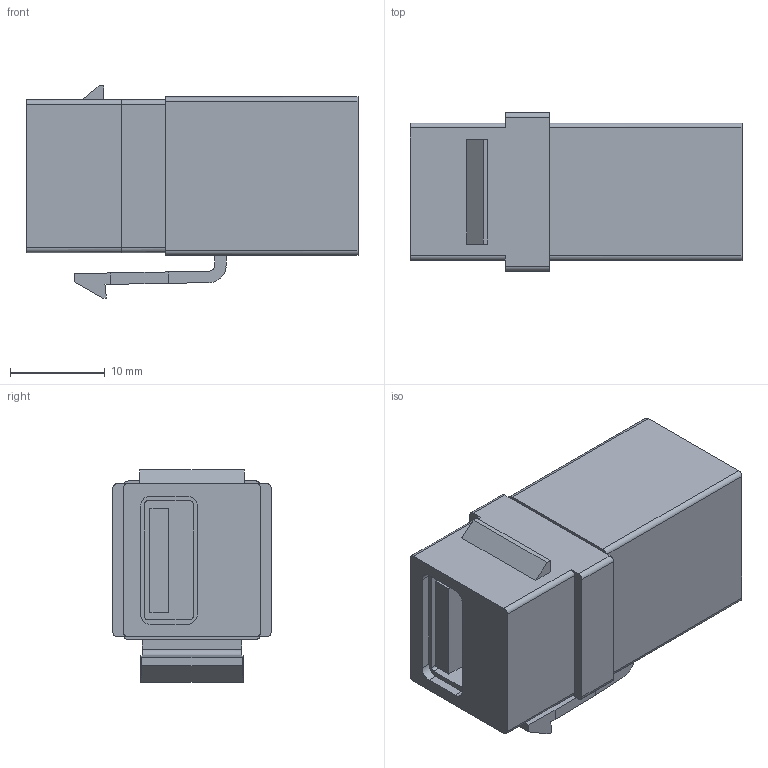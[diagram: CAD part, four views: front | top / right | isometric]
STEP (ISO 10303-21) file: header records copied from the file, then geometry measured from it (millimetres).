
FILE_DESCRIPTION( ('This file contains a STEP AP42 implementation' ,'as created by ZW3D STEP Interface translator.') ,'2;1' );
FILE_NAME( 'TB-001_FAU3-AFAF180-xx-ABS_SD.stp' ,'26 330.134526', (''), ('ZWCAD Software Co.'), 'Version 1.0', 'ZW3D to STEP translator', '' );
FILE_SCHEMA(('AUTOMOTIVE_DESIGN'));
Length unit declared in the file: millimetre
Products named in the file (2): 0; TB-001_FAU3-AFAF180-xx-ABS_SD
Bounding box: 35 x 16.7 x 22.36 mm (x, y, z)
Volume: 7853.2 mm3; surface area: 4335.1 mm2
Topology: 1 solids, 1 shells, 97 faces, 257 edges, 170 vertices
Faces by surface type: bspline 97
Entity records: 4571 total; most frequent: CARTESIAN_POINT 2865, ORIENTED_EDGE 514, B_SPLINE_CURVE_WITH_KNOTS 257, EDGE_CURVE 257, VERTEX_POINT 170, EDGE_LOOP 105, FACE_OUTER_BOUND 97, ADVANCED_FACE 97
